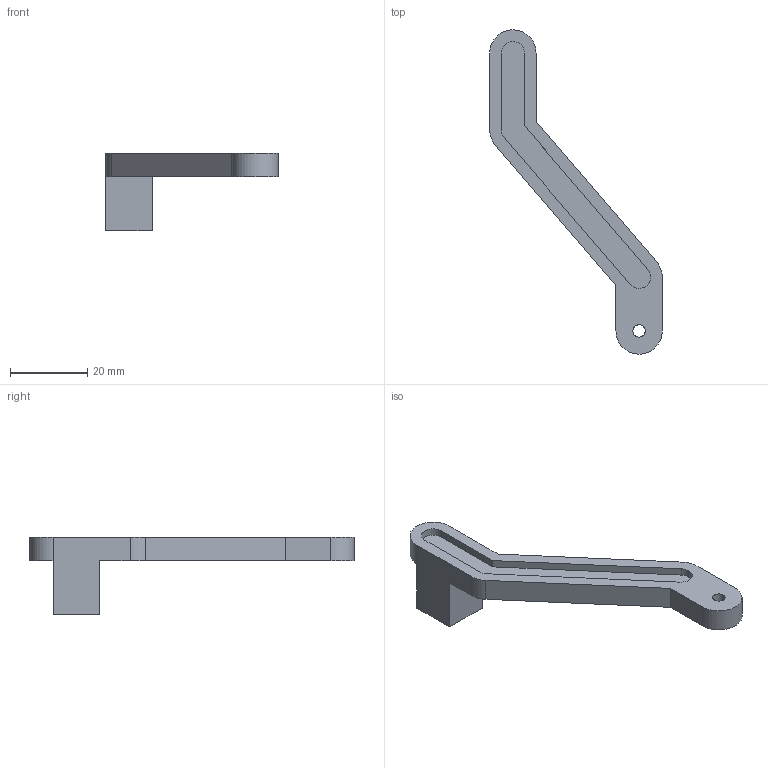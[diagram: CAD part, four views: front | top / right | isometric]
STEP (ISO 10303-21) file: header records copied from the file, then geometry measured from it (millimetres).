
FILE_DESCRIPTION(('STEP'), '1');
FILE_NAME('right-rear-temple', '2026-11-05T01:20:41', (''), (''), 'Express 3.1.3.0', 'Express Tool', 'Unknown');
FILE_SCHEMA(('AUTOMOTIVE_DESIGN'));
Length unit declared in the file: millimetre
Products named in the file (1): right-rear-temple
Bounding box: 44.67 x 83.99 x 20 mm (x, y, z)
Volume: 7598.3 mm3; surface area: 4654.5 mm2
Topology: 1 solids, 1 shells, 31 faces, 79 edges, 52 vertices
Faces by surface type: bspline 31
Entity records: 1082 total; most frequent: CARTESIAN_POINT 525, ORIENTED_EDGE 158, EDGE_CURVE 79, B_SPLINE_CURVE_WITH_KNOTS 61, VERTEX_POINT 52, DIRECTION 38, EDGE_LOOP 35, ADVANCED_FACE 31
